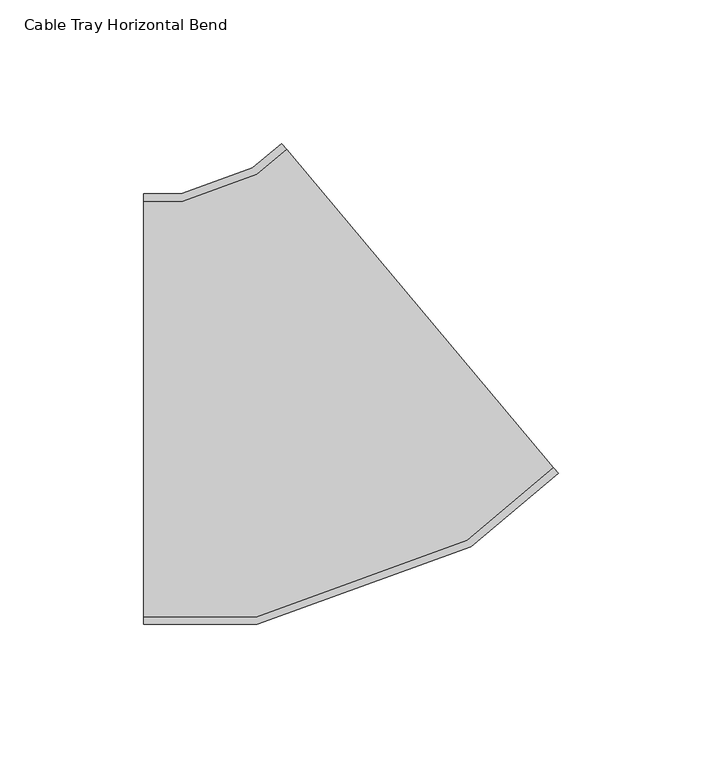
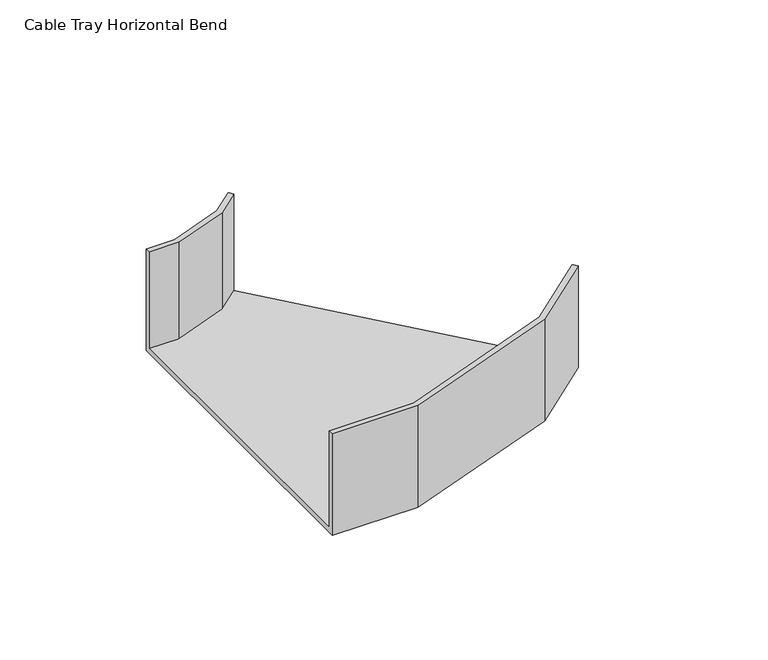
"""IFC4 building model written with IfcOpenShell, lengths in millimetres: cable carrier fitting geometry, Cable Tray Horizontal Bend : ELEC_ELV_CT_N2402."""

from ifc_helpers import new_model, si_unit, origin, place, context, project, spatial, faceted_brep, source, transform, mapped, element, save


def cable_tray_horizontal_bend_eb570cdd(model_context):
    return source(origin(), model_context, "Body", "Brep", [
        faceted_brep([(-54.5955351, -75.0, -25.0), (-54.5955351, -75.0, 25.0), (-54.5955351, -72.46, 25.0), (-54.5955351, -72.46, -22.46), (-54.5955351, 72.46, -22.46), (-54.5955351, 72.46, 25.0), (-54.5955351, 75.0, 25.0), (-54.5955351, 75.0, -25.0), (90.031677, -22.3599997, -25.0), (-6.3864644, 92.5466668, -25.0), (-6.3864644, 92.5466668, 25.0), (-4.7537839, 90.6009139, 25.0), (-4.7537839, 90.6009139, -22.46), (88.3989965, -20.4142468, -22.46), (88.3989965, -20.4142468, 25.0), (90.031677, -22.3599997, 25.0), (-14.9219645, -75.0, -25.0), (-14.9219645, -75.0, 25.0), (59.6399587, -47.8616794, 25.0), (58.3503669, -45.6280408, 25.0), (-15.369835, -72.46, 25.0), (-15.369835, -72.46, -22.46), (58.3503669, -45.6280408, -22.46), (-15.2274454, 81.8124684, -22.46), (-40.9231411, 72.46, -22.46), (-40.9231411, 72.46, 25.0), (-15.2274454, 81.8124684, 25.0), (-16.5170372, 84.0461069, 25.0), (-41.3710116, 75.0, 25.0), (-41.3710116, 75.0, -25.0), (-16.5170372, 84.0461069, -25.0), (59.6399587, -47.8616794, -25.0)], [[[0, 1, 2, 3, 4, 5, 6, 7]], [[8, 9, 10, 11, 12, 13, 14, 15]], [[1, 0, 16, 17]], [[2, 1, 17, 18, 15, 14, 19, 20]], [[3, 2, 20, 21]], [[4, 3, 21, 22, 13, 12, 23, 24]], [[5, 4, 24, 25]], [[6, 5, 25, 26, 11, 10, 27, 28]], [[7, 6, 28, 29]], [[0, 7, 29, 30, 9, 8, 31, 16]], [[17, 16, 31, 18]], [[21, 20, 19, 22]], [[25, 24, 23, 26]], [[29, 28, 27, 30]], [[18, 31, 8, 15]], [[22, 19, 14, 13]], [[26, 23, 12, 11]], [[30, 27, 10, 9]]]),
    ])


if __name__ == "__main__":
    model = new_model("IFC4")
    model_context = context("Model", 3, world=origin())
    ifc_project = project(units=[si_unit("LENGTHUNIT", "METRE", prefix="MILLI")], contexts=[model_context])
    site = spatial("IfcSite", under=ifc_project)
    building = spatial("IfcBuilding", under=site)
    placement = place(None, origin())
    cable_tray_horizontal_bend_shape = cable_tray_horizontal_bend_eb570cdd(model_context)
    element("IfcCableCarrierFitting", 1, ObjectType="Cable Tray Horizontal Bend : ELEC_ELV_CT_N2402", at=placement, inside=building, context=model_context, shape_type="MappedRepresentation", body=[
        mapped(cable_tray_horizontal_bend_shape, transform((0.0, 0.0, 0.0), x_axis=(1.0, 0.0, 0.0), y_axis=(0.0, 1.0, 0.0), z_axis=(0.0, 0.0, 1.0))),
    ])
    save(model, "model.ifc")
